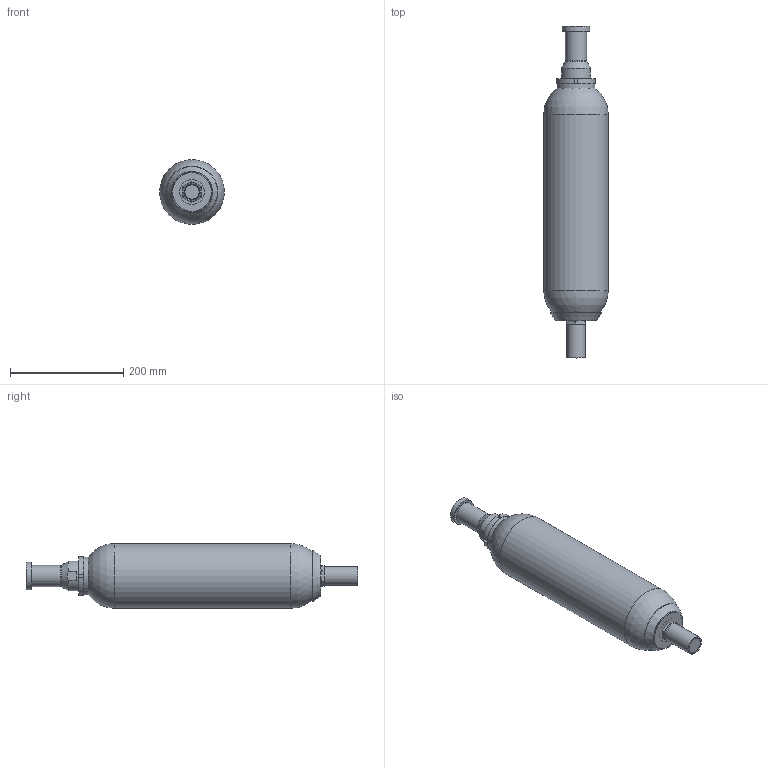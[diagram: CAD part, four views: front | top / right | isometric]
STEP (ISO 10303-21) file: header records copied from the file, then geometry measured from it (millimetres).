
FILE_DESCRIPTION((''),'2;1');
FILE_NAME('F:\STEP\ALLEGE\GAMME_EHVF_350&330&250bar\EHVF_2L5_350_90.stp','2011-03-04T11:39:57',('laurent.simeon'),(''),'Autodesk Inventor 2011','Autodesk Inventor 2011','');
FILE_SCHEMA(('AUTOMOTIVE_DESIGN { 1 0 10303 214 1 1 1 1 }'));
Length unit declared in the file: millimetre
Products named in the file (41): EHVF_2L5_350_90; CA108603-00190; BC108619-00220; BE100016-00200; BM108584-00200; CB108583-00200; EC100987-00200; DP100027-01200; EC102958-00200; BP102851-00200; BOUCHON DE PROTECTION; BOUCHON PLASTIQUE; VA108479-01626; VA108473-01626; VA108439-01600; VA108437-01600; PI108438-01600; RE100758-01200; JT104172-00023; JP102452-00026; ET106134-02600; BOUCHON DE VALVE; BO100759-02600; JP101164-00020; JOINT PLAT; PF108610-05200
Assembly tree (40 placements, depth 5):
  EHVF_2L5_350_90
    CA108603-00190
      CA108603-00190
    BC108619-00220
      BE100016-00200
        BE100016-00200
      BM108584-00200
        CB108583-00200
          CB108583-00200
      EC100987-00200
        EC100987-00200
      DP100027-01200
        DP100027-01200
    EC102958-00200
      EC102958-00200
    BP102851-00200
      BOUCHON DE PROTECTION
      BOUCHON PLASTIQUE
    VA108479-01626
      VA108473-01626
        VA108439-01600
          VA108439-01600
        VA108437-01600
          VA108437-01600
        PI108438-01600
          PI108438-01600
        RE100758-01200
          RE100758-01200
        JT104172-00023
          JT104172-00023
        JP102452-00026
          JP102452-00026
        ET106134-02600
          ET106134-02600
      BOUCHON DE VALVE
        BO100759-02600
          BO100759-02600
        JP101164-00020
          JOINT PLAT
    PF108610-05200
      PF108610-05200
Bounding box: 114.3 x 586.7 x 114.3 mm (x, y, z)
Volume: 1224395.5 mm3; surface area: 373292.8 mm2
Topology: 24 solids, 24 shells, 685 faces, 1629 edges, 997 vertices
Faces by surface type: bspline 207, cylinder 185, plane 153, cone 79, torus 57, sphere 4
Full cylindrical faces by diameter (mm): 0.8 x1, 1.7 x1, 2 x1, 2.2 x1, 3.8 x1, 3.9 x1, 4.6 x1, 6.2 x1, 6.5 x1, 7 x1, 8 x1, 9 x3, 10 x1, 11 x6, 11.1 x1, 11.33 x1, 11.4 x1, 11.5 x1, 12.667 x1, 13 x1, 14.46 x1, 15.83 x1, 16 x2, 20.68 x1, 22 x2, 22.5 x1, 25 x1, 28.5 x2, 29.5 x1, 30.05 x1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
Entity records: 30277 total; most frequent: CARTESIAN_POINT 15449, ORIENTED_EDGE 2874, DIRECTION 2604, EDGE_CURVE 1437, AXIS2_PLACEMENT_3D 1148, VERTEX_POINT 936, EDGE_LOOP 893, FACE_OUTER_BOUND 684
